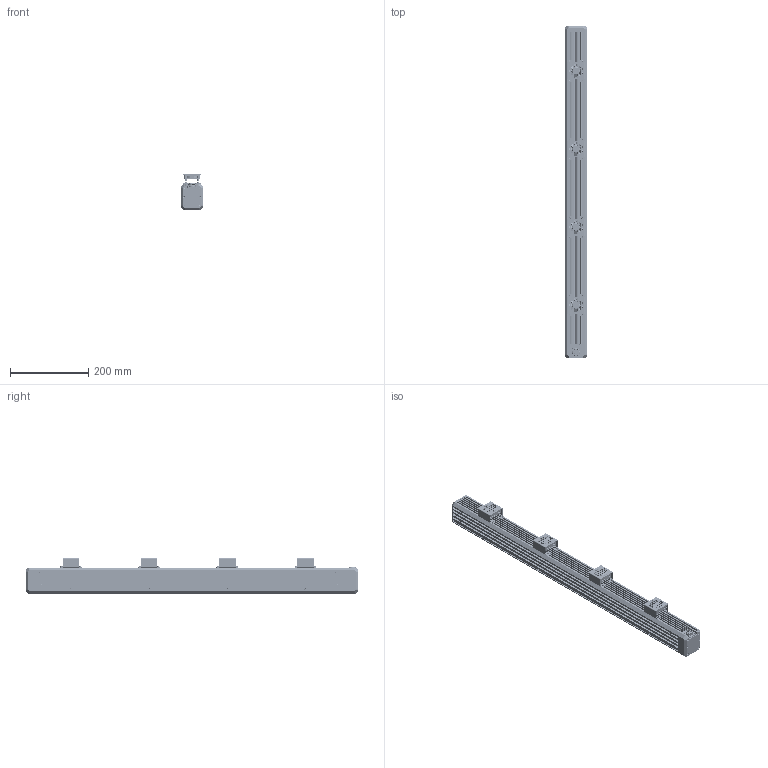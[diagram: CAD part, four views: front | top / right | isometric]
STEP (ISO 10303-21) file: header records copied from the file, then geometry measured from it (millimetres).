
FILE_DESCRIPTION((''),'2;1');
FILE_NAME('MV-LTDS-H-800-W_ASM_1_ASM','2025-06-03T15:15:54',('huguozhe'),(''),'CREO PARAMETRIC BY PTC INC, 2020044','CREO PARAMETRIC BY PTC INC, 2020044','');
FILE_SCHEMA(('AUTOMOTIVE_DESIGN { 1 0 10303 214 1 1 1 1 }'));
Products named in the file (27): DE-15-000634_1; DE-15-000633_ASM_1_ASM; DE-15-000636_1; DE-15-000635_ASM_1_ASM; SC-HSCM3X6B-GB70_1_1; DE-14-015561_1; DE-14-016112_ASM_1_ASM; DE-12-001668_1; SC-AM3X10NL-BNI-SCM435-GB70_1_1; SC-HSCM3X8-SUS316_1; DE-11-019911_1; 8002-CLS-M3-1_1; DE-11-019911_ASM_1_ASM; 101800527_01_1; 101800527_02_1; 101800527_MGA4012HB-O10_ASM_1_ASM; SC-ASFM3X14NL-BNI-SUS316L_1; NUT-M4-GB6170_1; DE-14-015560_1_1_1; DE-14-016113_ASM_1_1_ASM_1_ASM; DE-14-016113_ASM_ASM_1_ASM; 19M-H_2_1_1_1; 19M-8H-8P_1_1; 19M-8H_ASM_1_ASM_1_ASM; 19M-8H_ASM_ASM_1_ASM; DE-14-016113-19M-8H_ASM; MV-LTDS-H-800-W_ASM_1_ASM
Assembly tree (91 placements, depth 5):
  MV-LTDS-H-800-W_ASM_1_ASM
    DE-15-000633_ASM_1_ASM
      DE-15-000634_1
    DE-15-000635_ASM_1_ASM  x2
      DE-15-000636_1
    SC-HSCM3X6B-GB70_1_1  x8
    DE-14-016112_ASM_1_ASM
      DE-14-015561_1
    DE-12-001668_1
    SC-AM3X10NL-BNI-SCM435-GB70_1_1  x24
    SC-HSCM3X8-SUS316_1  x4
    DE-11-019911_ASM_1_ASM  x4
      DE-11-019911_1
      8002-CLS-M3-1_1
    101800527_MGA4012HB-O10_ASM_1_ASM  x4
      101800527_01_1
      101800527_02_1
    SC-ASFM3X14NL-BNI-SUS316L_1  x16
    NUT-M4-GB6170_1  x8
    DE-14-016113-19M-8H_ASM
      DE-14-016113_ASM_ASM_1_ASM
        DE-14-016113_ASM_1_1_ASM_1_ASM
          DE-14-015560_1_1_1
      19M-8H_ASM_ASM_1_ASM
        19M-8H_ASM_1_ASM_1_ASM
          19M-H_2_1_1_1
          19M-8H-8P_1_1
Bounding box: 58 x 850 x 90.6 mm (x, y, z)
Volume: 2618199.2 mm3; surface area: 722241.7 mm2
Topology: 96 solids, 268 shells, 5247 faces, 14006 edges, 9037 vertices
Faces by surface type: plane 2401, cylinder 1836, cone 704, torus 248, bspline 42, sphere 16
Entity records: 82835 total; most frequent: CARTESIAN_POINT 22948, DIRECTION 11205, ORIENTED_EDGE 10052, EDGE_CURVE 5176, AXIS2_PLACEMENT_3D 4274, VERTEX_POINT 3453, VECTOR 2657, LINE 2657
